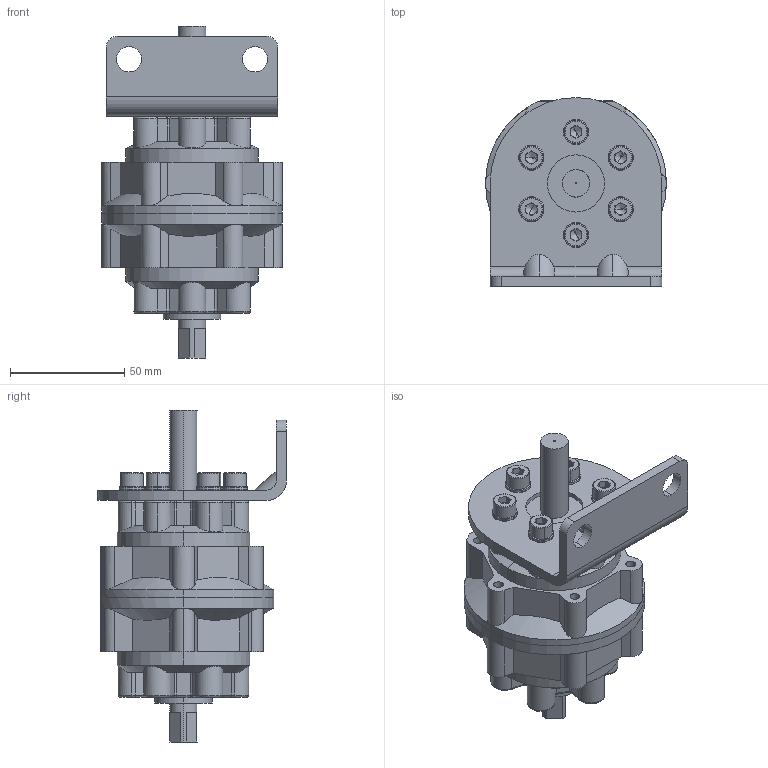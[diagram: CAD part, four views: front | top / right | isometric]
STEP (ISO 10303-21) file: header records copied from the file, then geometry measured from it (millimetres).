
FILE_DESCRIPTION (( 'STEP AP203' ), '1' );
FILE_NAME ('PRN50#-#-#-L1.STEP', '2016-01-14T16:39:47', ( '' ), ( '' ), 'SwSTEP 2.0', 'SolidWorks 2014', '' );
FILE_SCHEMA (( 'CONFIG_CONTROL_DESIGN' ));
Length unit declared in the file: millimetre
Products named in the file (8): ISO 4762 M6 x 20; PRN50#-#-#-L1 (3); M6T1.5墊片; PRN50 (3); PRN50 (2); PRN50 (1); mark-PRN50; PRN50#-#-#-L1
Assembly tree (17 placements, depth 2):
  PRN50#-#-#-L1
    PRN50 (1)
    PRN50 (2)
    PRN50 (3)
    mark-PRN50
    PRN50#-#-#-L1 (3)
    ISO 4762 M6 x 20  x6
    M6T1.5墊片  x6
Bounding box: 79 x 82.5 x 145 mm (x, y, z)
Volume: 283026 mm3; surface area: 82185.7 mm2
Topology: 23 solids, 23 shells, 755 faces, 1845 edges, 1131 vertices
Faces by surface type: cylinder 291, plane 284, torus 101, cone 71, bspline 8
Entity records: 19340 total; most frequent: CARTESIAN_POINT 4191, DIRECTION 3081, ORIENTED_EDGE 2850, EDGE_CURVE 1425, AXIS2_PLACEMENT_3D 1191, VERTEX_POINT 906, VECTOR 699, LINE 699
